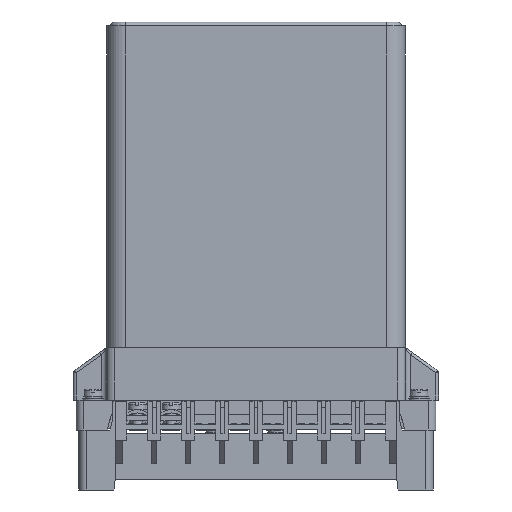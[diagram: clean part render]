
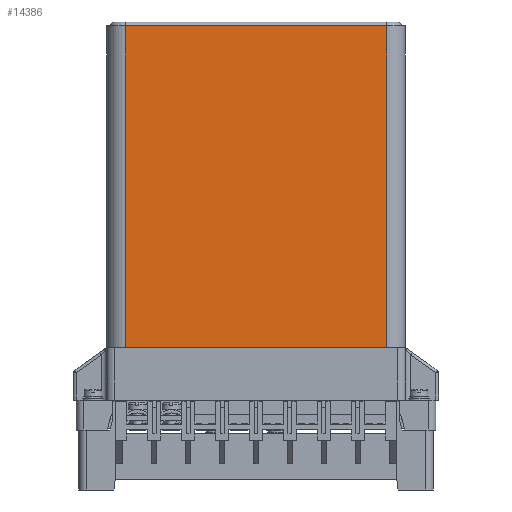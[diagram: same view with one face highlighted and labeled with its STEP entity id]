
A CAD part, left-side view. The second image highlights one B-rep face of the part: STEP entity #14386.
In plain terms, the highlighted planar face has unit normal (-1, 0, 0).
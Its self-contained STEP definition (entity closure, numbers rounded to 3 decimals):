
#14386=ADVANCED_FACE('',(#59216),#59218,.T.);
#59216=FACE_BOUND('',#59217,.T.);
#59217=EDGE_LOOP('',(#94612,#94613,#94614,#94615));
#59218=PLANE('',#59219);
#59219=AXIS2_PLACEMENT_3D('',#59220,#59221,#59222);
#59220=CARTESIAN_POINT('',(-32.15,50.15,31.5));
#59221=DIRECTION('',(-1.,0.,0.));
#59222=DIRECTION('',(0.,-1.,0.));
#94612=ORIENTED_EDGE('',*,*,#119148,.T.);
#94613=ORIENTED_EDGE('',*,*,#119873,.T.);
#94614=ORIENTED_EDGE('',*,*,#119874,.F.);
#94615=ORIENTED_EDGE('',*,*,#119875,.F.);
#119148=EDGE_CURVE('',#136771,#136769,#136772,.T.);
#119873=EDGE_CURVE('',#136769,#137988,#137990,.T.);
#119874=EDGE_CURVE('',#137991,#137988,#137992,.T.);
#119875=EDGE_CURVE('',#136771,#137991,#137993,.T.);
#136769=VERTEX_POINT('',#171203);
#136771=VERTEX_POINT('',#171208);
#136772=LINE('',#171209,#171210);
#137988=VERTEX_POINT('',#174403);
#137990=LINE('',#174408,#174409);
#137991=VERTEX_POINT('',#174411);
#137992=LINE('',#174412,#174413);
#137993=LINE('',#174415,#174416);
#171203=CARTESIAN_POINT('',(-32.15,-50.15,31.5));
#171208=CARTESIAN_POINT('',(-32.15,50.15,31.5));
#171209=CARTESIAN_POINT('',(-32.15,50.15,31.5));
#171210=VECTOR('',#171211,1.);
#171211=DIRECTION('',(0.,-1.,0.));
#174403=CARTESIAN_POINT('',(-32.15,-50.15,155.));
#174408=CARTESIAN_POINT('',(-32.15,-50.15,31.5));
#174409=VECTOR('',#174410,1.);
#174410=DIRECTION('',(0.,0.,1.));
#174411=CARTESIAN_POINT('',(-32.15,50.15,155.));
#174412=CARTESIAN_POINT('',(-32.15,50.15,155.));
#174413=VECTOR('',#174414,1.);
#174414=DIRECTION('',(0.,-1.,0.));
#174415=CARTESIAN_POINT('',(-32.15,50.15,31.5));
#174416=VECTOR('',#174417,1.);
#174417=DIRECTION('',(0.,0.,1.));
